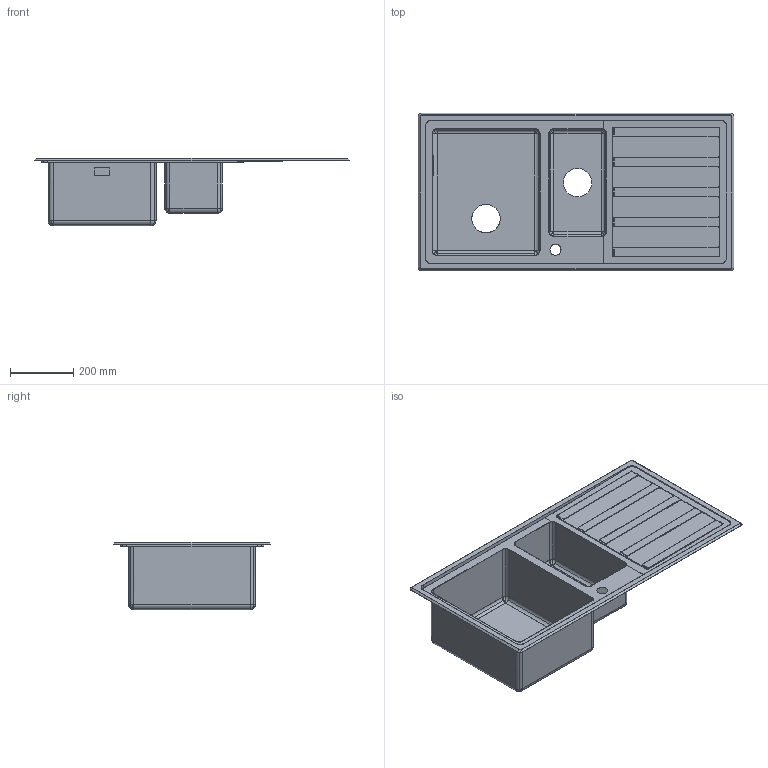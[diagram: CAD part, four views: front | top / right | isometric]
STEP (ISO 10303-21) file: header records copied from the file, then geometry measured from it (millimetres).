
FILE_DESCRIPTION(('CATIA V5 STEP Exchange'),'2;1');
FILE_NAME('C:\Users\linop\Desktop\LD102S-2.stp','2018-05-25T07:31:37+00:00',('none'),('none'),'CATIA Version 5-6 Release 2014','CATIA V5 STEP AP203','none');
FILE_SCHEMA(('CONFIG_CONTROL_DESIGN'));
Length unit declared in the file: millimetre
Products named in the file (1): LD102S-2
Bounding box: 1000 x 500 x 214 mm (x, y, z)
Volume: 829757.1 mm3; surface area: 1944570.5 mm2
Topology: 3 solids, 3 shells, 306 faces, 824 edges, 496 vertices
Faces by surface type: cylinder 138, plane 124, sphere 32, cone 12
Entity records: 9432 total; most frequent: CARTESIAN_POINT 2246, ORIENTED_EDGE 1584, DIRECTION 1260, EDGE_CURVE 792, AXIS2_PLACEMENT_3D 525, VERTEX_POINT 496, VECTOR 464, LINE 464
